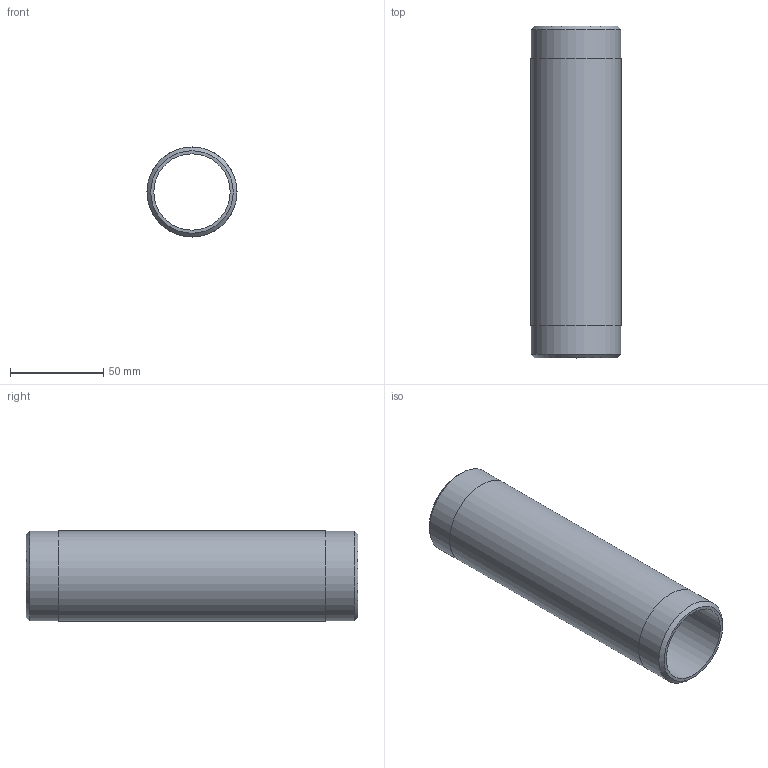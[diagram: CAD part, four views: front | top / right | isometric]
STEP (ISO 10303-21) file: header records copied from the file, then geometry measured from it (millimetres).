
FILE_DESCRIPTION(/* description */ (''),/* implementation_level */ '2;1');
FILE_NAME(/* name */ 'C:/Users/drich/Desktop/BPN1-1_2-7 v1.step',/* time_stamp */ '2020-01-03T14:27:41-06:00',/* author */ (''),/* organization */ (''),/* preprocessor_version */ 'ST-DEVELOPER v18',/* originating_system */ 'Autodesk Translation Framework v8.12.0.6',/* authorisation */ '');
FILE_SCHEMA (('AUTOMOTIVE_DESIGN { 1 0 10303 214 3 1 1 }'));
Length unit declared in the file: inch
Products named in the file (1): BPN1-1_2-7
Bounding box: 48.26 x 177.8 x 48.26 mm (x, y, z)
Volume: 90964.3 mm3; surface area: 50453.9 mm2
Topology: 1 solids, 1 shells, 10 faces, 24 edges, 18 vertices
Faces by surface type: cylinder 4, plane 4, cone 2
Full cylindrical faces by diameter (mm): 40.894 x1, 48.209 x2, 48.26 x1
Entity records: 360 total; most frequent: DIRECTION 64, CARTESIAN_POINT 53, ORIENTED_EDGE 48, AXIS2_PLACEMENT_3D 29, EDGE_CURVE 24, CIRCLE 18, VERTEX_POINT 18, EDGE_LOOP 14
